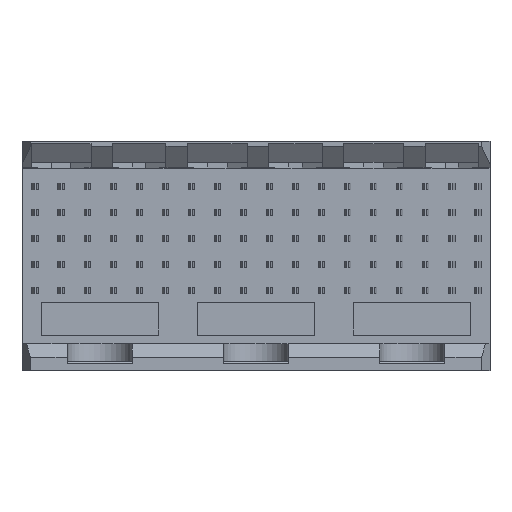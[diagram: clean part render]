
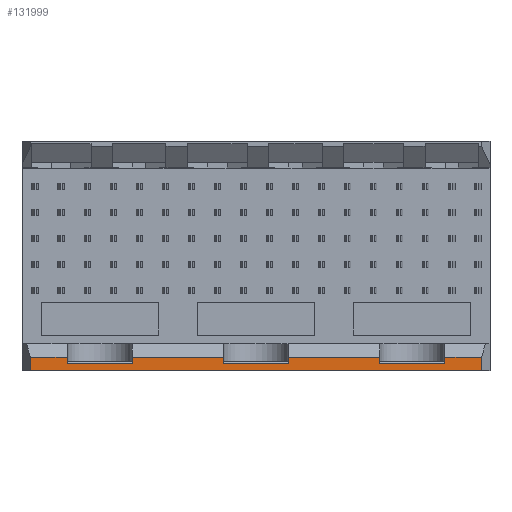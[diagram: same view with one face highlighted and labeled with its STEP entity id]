
A CAD part, top view. The second image highlights one B-rep face of the part: STEP entity #131999.
In plain terms, the highlighted planar face has unit normal (0, 0, 1).
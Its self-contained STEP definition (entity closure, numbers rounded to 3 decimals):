
#4564 = VERTEX_POINT ( 'NONE', #145925 ) ;
#4602 = VERTEX_POINT ( 'NONE', #92247 ) ;
#4985 = VERTEX_POINT ( 'NONE', #92539 ) ;
#5414 = VERTEX_POINT ( 'NONE', #92850 ) ;
#9876 = PLANE ( 'NONE',  #118996 ) ;
#9879 = CARTESIAN_POINT ( 'NONE',  ( 5.999, -5.86, 0. ) ) ;
#9883 = FACE_OUTER_BOUND ( 'NONE', #24836, .T. ) ;
#9887 = DIRECTION ( 'NONE',  ( 0., 0., 1. ) ) ;
#9889 = DIRECTION ( 'NONE',  ( 1., 0., 0. ) ) ;
#24836 = EDGE_LOOP ( 'NONE', ( #138343, #138342, #138341, #138340, #138339, #138338, #138337, #138336, #138335, #138334, #138333, #138332, #138331, #138330, #138329, #138328 ) ) ;
#31835 = EDGE_CURVE ( 'NONE', #5414, #124305, #149790, .T. ) ;
#31840 = EDGE_CURVE ( 'NONE', #124377, #124305, #149758, .T. ) ;
#31855 = EDGE_CURVE ( 'NONE', #101368, #124377, #149770, .T. ) ;
#31859 = EDGE_CURVE ( 'NONE', #124814, #101368, #149792, .T. ) ;
#31863 = EDGE_CURVE ( 'NONE', #124814, #101563, #149799, .T. ) ;
#31867 = EDGE_CURVE ( 'NONE', #100759, #101563, #149820, .T. ) ;
#31881 = EDGE_CURVE ( 'NONE', #98992, #100759, #149805, .T. ) ;
#31886 = EDGE_CURVE ( 'NONE', #124843, #98992, #149811, .T. ) ;
#31889 = EDGE_CURVE ( 'NONE', #124843, #4564, #149821, .T. ) ;
#31890 = EDGE_CURVE ( 'NONE', #100369, #4564, #149842, .T. ) ;
#31897 = EDGE_CURVE ( 'NONE', #98375, #100369, #149833, .T. ) ;
#31901 = EDGE_CURVE ( 'NONE', #101116, #98375, #149844, .T. ) ;
#31905 = EDGE_CURVE ( 'NONE', #101116, #4602, #149851, .T. ) ;
#31911 = EDGE_CURVE ( 'NONE', #4985, #4602, #149869, .T. ) ;
#31915 = EDGE_CURVE ( 'NONE', #98545, #4985, #149857, .T. ) ;
#31917 = EDGE_CURVE ( 'NONE', #98545, #5414, #149863, .T. ) ;
#63529 = CARTESIAN_POINT ( 'NONE',  ( 17.325, -5.86, 0. ) ) ;
#63552 = CARTESIAN_POINT ( 'NONE',  ( 17.325, -4.86, 0. ) ) ;
#63711 = CARTESIAN_POINT ( 'NONE',  ( 14.501, -5.361, 0. ) ) ;
#63726 = CARTESIAN_POINT ( 'NONE',  ( 2.501, -5.361, 0. ) ) ;
#66534 = VECTOR ( 'NONE', #149801, 1000. ) ;
#66540 = VECTOR ( 'NONE', #149796, 1000. ) ;
#66542 = VECTOR ( 'NONE', #149807, 1000. ) ;
#66543 = VECTOR ( 'NONE', #149813, 1000. ) ;
#66544 = VECTOR ( 'NONE', #149818, 1000. ) ;
#66547 = VECTOR ( 'NONE', #149831, 1000. ) ;
#66551 = VECTOR ( 'NONE', #149825, 1000. ) ;
#66554 = VECTOR ( 'NONE', #149834, 1000. ) ;
#66557 = VECTOR ( 'NONE', #149840, 1000. ) ;
#66561 = VECTOR ( 'NONE', #149848, 1000. ) ;
#66565 = VECTOR ( 'NONE', #149859, 1000. ) ;
#66567 = VECTOR ( 'NONE', #149864, 1000. ) ;
#66570 = VECTOR ( 'NONE', #149867, 1000. ) ;
#66573 = VECTOR ( 'NONE', #149879, 1000. ) ;
#66576 = VECTOR ( 'NONE', #149873, 1000. ) ;
#66579 = VECTOR ( 'NONE', #149884, 1000. ) ;
#87065 = CARTESIAN_POINT ( 'NONE',  ( 9.501, -5.361, 0. ) ) ;
#92247 = CARTESIAN_POINT ( 'NONE',  ( -14.499, -5.361, 0. ) ) ;
#92539 = CARTESIAN_POINT ( 'NONE',  ( -14.499, -4.86, 0. ) ) ;
#92850 = CARTESIAN_POINT ( 'NONE',  ( -17.325, -5.86, 0. ) ) ;
#96979 = CARTESIAN_POINT ( 'NONE',  ( -9.499, -4.86, 0. ) ) ;
#97073 = CARTESIAN_POINT ( 'NONE',  ( -17.325, -4.86, 0. ) ) ;
#97235 = CARTESIAN_POINT ( 'NONE',  ( 2.501, -4.86, 0. ) ) ;
#97981 = CARTESIAN_POINT ( 'NONE',  ( -2.499, -4.86, 0. ) ) ;
#98375 = VERTEX_POINT ( 'NONE', #96979 ) ;
#98545 = VERTEX_POINT ( 'NONE', #97073 ) ;
#98992 = VERTEX_POINT ( 'NONE', #97235 ) ;
#100369 = VERTEX_POINT ( 'NONE', #97981 ) ;
#100666 = CARTESIAN_POINT ( 'NONE',  ( 9.501, -4.86, 0. ) ) ;
#100759 = VERTEX_POINT ( 'NONE', #100666 ) ;
#101116 = VERTEX_POINT ( 'NONE', #101990 ) ;
#101368 = VERTEX_POINT ( 'NONE', #102475 ) ;
#101563 = VERTEX_POINT ( 'NONE', #87065 ) ;
#101990 = CARTESIAN_POINT ( 'NONE',  ( -9.499, -5.361, 0. ) ) ;
#102475 = CARTESIAN_POINT ( 'NONE',  ( 14.501, -4.86, 0. ) ) ;
#118996 = AXIS2_PLACEMENT_3D ( 'NONE', #9879, #9887, #9889 ) ;
#124305 = VERTEX_POINT ( 'NONE', #63529 ) ;
#124377 = VERTEX_POINT ( 'NONE', #63552 ) ;
#124814 = VERTEX_POINT ( 'NONE', #63711 ) ;
#124843 = VERTEX_POINT ( 'NONE', #63726 ) ;
#131999 = ADVANCED_FACE ( 'NONE', ( #9883 ), #9876, .T. ) ;
#138328 = ORIENTED_EDGE ( 'NONE', *, *, #31917, .T. ) ;
#138329 = ORIENTED_EDGE ( 'NONE', *, *, #31915, .F. ) ;
#138330 = ORIENTED_EDGE ( 'NONE', *, *, #31911, .F. ) ;
#138331 = ORIENTED_EDGE ( 'NONE', *, *, #31905, .T. ) ;
#138332 = ORIENTED_EDGE ( 'NONE', *, *, #31901, .F. ) ;
#138333 = ORIENTED_EDGE ( 'NONE', *, *, #31897, .F. ) ;
#138334 = ORIENTED_EDGE ( 'NONE', *, *, #31890, .F. ) ;
#138335 = ORIENTED_EDGE ( 'NONE', *, *, #31889, .T. ) ;
#138336 = ORIENTED_EDGE ( 'NONE', *, *, #31886, .F. ) ;
#138337 = ORIENTED_EDGE ( 'NONE', *, *, #31881, .F. ) ;
#138338 = ORIENTED_EDGE ( 'NONE', *, *, #31867, .F. ) ;
#138339 = ORIENTED_EDGE ( 'NONE', *, *, #31863, .T. ) ;
#138340 = ORIENTED_EDGE ( 'NONE', *, *, #31859, .F. ) ;
#138341 = ORIENTED_EDGE ( 'NONE', *, *, #31855, .F. ) ;
#138342 = ORIENTED_EDGE ( 'NONE', *, *, #31840, .F. ) ;
#138343 = ORIENTED_EDGE ( 'NONE', *, *, #31835, .T. ) ;
#145925 = CARTESIAN_POINT ( 'NONE',  ( -2.499, -5.361, 0. ) ) ;
#149758 = LINE ( 'NONE', #149798, #66534 ) ;
#149770 = LINE ( 'NONE', #149803, #66542 ) ;
#149790 = LINE ( 'NONE', #149794, #66540 ) ;
#149792 = LINE ( 'NONE', #149809, #66543 ) ;
#149794 = CARTESIAN_POINT ( 'NONE',  ( 5.999, -5.86, 0. ) ) ;
#149796 = DIRECTION ( 'NONE',  ( 1., 0., 0. ) ) ;
#149798 = CARTESIAN_POINT ( 'NONE',  ( 17.325, 11.74, 0. ) ) ;
#149799 = LINE ( 'NONE', #149815, #66544 ) ;
#149801 = DIRECTION ( 'NONE',  ( 0., -1., 0. ) ) ;
#149803 = CARTESIAN_POINT ( 'NONE',  ( -26.463, -4.86, 0. ) ) ;
#149805 = LINE ( 'NONE', #149827, #66547 ) ;
#149807 = DIRECTION ( 'NONE',  ( 1., 0., 0. ) ) ;
#149809 = CARTESIAN_POINT ( 'NONE',  ( 14.501, -5.86, 0. ) ) ;
#149811 = LINE ( 'NONE', #149832, #66554 ) ;
#149813 = DIRECTION ( 'NONE',  ( 0., 1., 0. ) ) ;
#149815 = CARTESIAN_POINT ( 'NONE',  ( 5.999, -5.361, 0. ) ) ;
#149818 = DIRECTION ( 'NONE',  ( -1., 0., 0. ) ) ;
#149820 = LINE ( 'NONE', #149823, #66551 ) ;
#149821 = LINE ( 'NONE', #149836, #66557 ) ;
#149823 = CARTESIAN_POINT ( 'NONE',  ( 9.501, -5.86, 0. ) ) ;
#149825 = DIRECTION ( 'NONE',  ( 0., -1., 0. ) ) ;
#149827 = CARTESIAN_POINT ( 'NONE',  ( -14.463, -4.86, 0. ) ) ;
#149831 = DIRECTION ( 'NONE',  ( 1., 0., 0. ) ) ;
#149832 = CARTESIAN_POINT ( 'NONE',  ( 2.501, -5.86, 0. ) ) ;
#149833 = LINE ( 'NONE', #149855, #66565 ) ;
#149834 = DIRECTION ( 'NONE',  ( 0., 1., 0. ) ) ;
#149836 = CARTESIAN_POINT ( 'NONE',  ( -6.001, -5.361, 0. ) ) ;
#149840 = DIRECTION ( 'NONE',  ( -1., 0., 0. ) ) ;
#149842 = LINE ( 'NONE', #149846, #66561 ) ;
#149844 = LINE ( 'NONE', #149860, #66567 ) ;
#149846 = CARTESIAN_POINT ( 'NONE',  ( -2.499, -5.86, 0. ) ) ;
#149848 = DIRECTION ( 'NONE',  ( 0., -1., 0. ) ) ;
#149851 = LINE ( 'NONE', #149865, #66570 ) ;
#149855 = CARTESIAN_POINT ( 'NONE',  ( -50.463, -4.86, 0. ) ) ;
#149857 = LINE ( 'NONE', #149875, #66573 ) ;
#149859 = DIRECTION ( 'NONE',  ( 1., 0., 0. ) ) ;
#149860 = CARTESIAN_POINT ( 'NONE',  ( -9.499, -5.86, 0. ) ) ;
#149863 = LINE ( 'NONE', #149880, #66579 ) ;
#149864 = DIRECTION ( 'NONE',  ( 0., 1., 0. ) ) ;
#149865 = CARTESIAN_POINT ( 'NONE',  ( -18.001, -5.361, 0. ) ) ;
#149867 = DIRECTION ( 'NONE',  ( -1., 0., 0. ) ) ;
#149869 = LINE ( 'NONE', #149872, #66576 ) ;
#149872 = CARTESIAN_POINT ( 'NONE',  ( -14.499, -5.86, 0. ) ) ;
#149873 = DIRECTION ( 'NONE',  ( 0., -1., 0. ) ) ;
#149875 = CARTESIAN_POINT ( 'NONE',  ( -38.463, -4.86, 0. ) ) ;
#149879 = DIRECTION ( 'NONE',  ( 1., 0., 0. ) ) ;
#149880 = CARTESIAN_POINT ( 'NONE',  ( -17.325, 11.74, 0. ) ) ;
#149884 = DIRECTION ( 'NONE',  ( 0., -1., 0. ) ) ;
